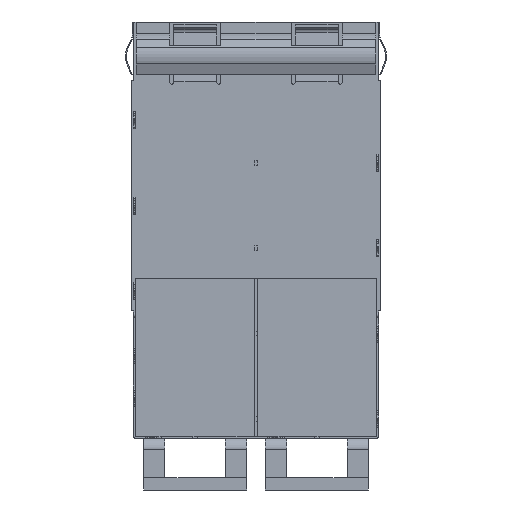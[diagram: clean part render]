
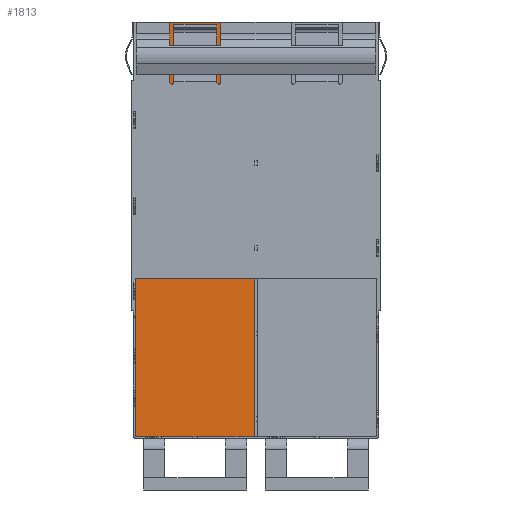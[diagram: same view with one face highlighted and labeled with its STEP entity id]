
A CAD part, front view. The second image highlights one B-rep face of the part: STEP entity #1813.
In plain terms, the highlighted planar face has unit normal (0, -1, 0).
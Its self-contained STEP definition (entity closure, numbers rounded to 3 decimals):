
#1050=FACE_OUTER_BOUND('',#2975,.T.);
#1813=ADVANCED_FACE('',(#1050),#2517,.F.);
#2517=PLANE('',#14352);
#2975=EDGE_LOOP('',(#4096,#4097,#4098,#4099));
#4096=ORIENTED_EDGE('',*,*,#9595,.F.);
#4097=ORIENTED_EDGE('',*,*,#9596,.T.);
#4098=ORIENTED_EDGE('',*,*,#9597,.F.);
#4099=ORIENTED_EDGE('',*,*,#9535,.F.);
#8158=VERTEX_POINT('',#20426);
#8159=VERTEX_POINT('',#20428);
#8216=VERTEX_POINT('',#20546);
#8217=VERTEX_POINT('',#20548);
#9535=EDGE_CURVE('',#8158,#8159,#11511,.T.);
#9595=EDGE_CURVE('',#8216,#8158,#11545,.T.);
#9596=EDGE_CURVE('',#8216,#8217,#11546,.T.);
#9597=EDGE_CURVE('',#8159,#8217,#11547,.T.);
#11511=LINE('',#20427,#12947);
#11545=LINE('',#20545,#12981);
#11546=LINE('',#20547,#12982);
#11547=LINE('',#20549,#12983);
#12947=VECTOR('',#16014,1.);
#12981=VECTOR('',#16102,1.);
#12982=VECTOR('',#16103,1.);
#12983=VECTOR('',#16104,1.);
#14352=AXIS2_PLACEMENT_3D('',#20550,#16105,#16106);
#16014=DIRECTION('',(-1.,0.,0.));
#16102=DIRECTION('',(0.,0.,-1.));
#16103=DIRECTION('',(-1.,0.,0.));
#16104=DIRECTION('',(0.,0.,1.));
#16105=DIRECTION('',(0.,1.,0.));
#16106=DIRECTION('',(0.,0.,-1.));
#20426=CARTESIAN_POINT('',(-0.125,9.2,-48.5));
#20427=CARTESIAN_POINT('',(14.075,9.2,-48.5));
#20428=CARTESIAN_POINT('',(-14.075,9.2,-48.5));
#20545=CARTESIAN_POINT('',(-0.125,9.2,8.953));
#20546=CARTESIAN_POINT('',(-0.125,9.2,0.));
#20547=CARTESIAN_POINT('',(14.075,9.2,0.));
#20548=CARTESIAN_POINT('',(-14.075,9.2,0.));
#20549=CARTESIAN_POINT('',(-14.075,9.2,-78.384));
#20550=CARTESIAN_POINT('',(14.075,9.2,-78.384));
